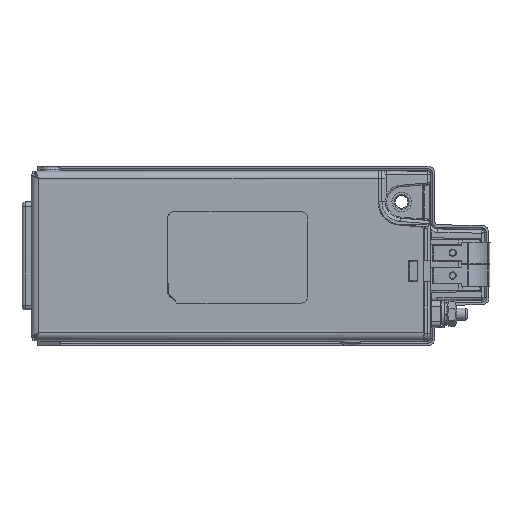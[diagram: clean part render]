
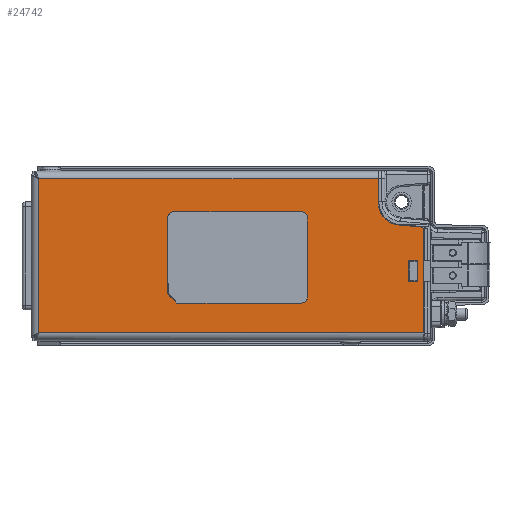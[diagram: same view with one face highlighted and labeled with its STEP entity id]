
A CAD part, top view. The second image highlights one B-rep face of the part: STEP entity #24742.
In plain terms, the highlighted planar face has unit normal (0, 0, 1).
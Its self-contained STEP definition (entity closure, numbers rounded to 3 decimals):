
#467=FACE_BOUND('',#3559,.T.);
#468=FACE_BOUND('',#3560,.T.);
#961=PLANE('',#26792);
#2165=FACE_OUTER_BOUND('',#3558,.T.);
#3558=EDGE_LOOP('',(#19917,#19918,#19919,#19920,#19921,#19922,#19923,#19924));
#3559=EDGE_LOOP('',(#19925,#19926,#19927,#19928));
#3560=EDGE_LOOP('',(#19929,#19930,#19931,#19932,#19933,#19934,#19935,#19936,
#19937,#19938));
#4533=CIRCLE('',#25624,7.5);
#4909=CIRCLE('',#26793,2.);
#4910=CIRCLE('',#26794,2.);
#4911=CIRCLE('',#26795,2.);
#5320=LINE('',#35169,#7500);
#5321=LINE('',#35220,#7501);
#5325=LINE('',#35258,#7505);
#5367=LINE('',#35345,#7547);
#5370=LINE('',#35350,#7550);
#5372=LINE('',#35354,#7552);
#5374=LINE('',#35357,#7554);
#5433=LINE('',#35474,#7613);
#5436=LINE('',#35479,#7616);
#5832=LINE('',#36624,#8012);
#5854=LINE('',#36710,#8034);
#5856=LINE('',#36717,#8036);
#5860=LINE('',#36737,#8040);
#6603=LINE('',#43694,#8783);
#6604=LINE('',#43698,#8784);
#6605=LINE('',#43702,#8785);
#6606=LINE('',#43706,#8786);
#6607=LINE('',#43707,#8787);
#7500=VECTOR('',#27895,10.);
#7501=VECTOR('',#27900,10.);
#7505=VECTOR('',#27910,10.);
#7547=VECTOR('',#27984,10.);
#7550=VECTOR('',#27989,10.);
#7552=VECTOR('',#27993,10.);
#7554=VECTOR('',#27997,10.);
#7613=VECTOR('',#28118,10.);
#7616=VECTOR('',#28123,10.);
#8012=VECTOR('',#29069,10.);
#8034=VECTOR('',#29119,10.);
#8036=VECTOR('',#29125,10.);
#8040=VECTOR('',#29135,10.);
#8783=VECTOR('',#32212,10.);
#8784=VECTOR('',#32215,10.);
#8785=VECTOR('',#32218,10.);
#8786=VECTOR('',#32221,10.);
#8787=VECTOR('',#32222,10.);
#9653=VERTEX_POINT('',#34885);
#9656=VERTEX_POINT('',#34933);
#9719=VERTEX_POINT('',#35168);
#9723=VERTEX_POINT('',#35256);
#9751=VERTEX_POINT('',#35343);
#9752=VERTEX_POINT('',#35344);
#9753=VERTEX_POINT('',#35349);
#9754=VERTEX_POINT('',#35353);
#9772=VERTEX_POINT('',#35447);
#9779=VERTEX_POINT('',#35467);
#9781=VERTEX_POINT('',#35473);
#10102=VERTEX_POINT('',#36622);
#10136=VERTEX_POINT('',#36708);
#10139=VERTEX_POINT('',#36715);
#10141=VERTEX_POINT('',#36731);
#11028=VERTEX_POINT('',#43693);
#11029=VERTEX_POINT('',#43695);
#11030=VERTEX_POINT('',#43697);
#11031=VERTEX_POINT('',#43699);
#11032=VERTEX_POINT('',#43701);
#11033=VERTEX_POINT('',#43703);
#11034=VERTEX_POINT('',#43705);
#11927=EDGE_CURVE('',#9719,#9653,#5320,.T.);
#11932=EDGE_CURVE('',#9653,#9656,#5321,.T.);
#11937=EDGE_CURVE('',#9656,#9723,#5325,.T.);
#11979=EDGE_CURVE('',#9751,#9752,#5367,.T.);
#11982=EDGE_CURVE('',#9753,#9751,#5370,.T.);
#11984=EDGE_CURVE('',#9754,#9753,#5372,.T.);
#11986=EDGE_CURVE('',#9752,#9754,#5374,.T.);
#12045=EDGE_CURVE('',#9781,#9779,#5433,.T.);
#12048=EDGE_CURVE('',#9772,#9781,#5436,.T.);
#12556=EDGE_CURVE('',#10102,#9723,#5832,.T.);
#12592=EDGE_CURVE('',#10136,#10102,#5854,.T.);
#12595=EDGE_CURVE('',#10136,#10139,#5856,.T.);
#12599=EDGE_CURVE('',#10139,#10141,#4533,.T.);
#12601=EDGE_CURVE('',#10141,#9719,#5860,.T.);
#14129=EDGE_CURVE('',#9779,#11028,#6603,.T.);
#14130=EDGE_CURVE('',#11028,#11029,#4909,.T.);
#14131=EDGE_CURVE('',#11029,#11030,#6604,.T.);
#14132=EDGE_CURVE('',#11030,#11031,#4910,.T.);
#14133=EDGE_CURVE('',#11031,#11032,#6605,.T.);
#14134=EDGE_CURVE('',#11032,#11033,#4911,.T.);
#14135=EDGE_CURVE('',#11033,#11034,#6606,.T.);
#14136=EDGE_CURVE('',#11034,#9772,#6607,.T.);
#19917=ORIENTED_EDGE('',*,*,#11932,.T.);
#19918=ORIENTED_EDGE('',*,*,#11937,.T.);
#19919=ORIENTED_EDGE('',*,*,#12556,.F.);
#19920=ORIENTED_EDGE('',*,*,#12592,.F.);
#19921=ORIENTED_EDGE('',*,*,#12595,.T.);
#19922=ORIENTED_EDGE('',*,*,#12599,.T.);
#19923=ORIENTED_EDGE('',*,*,#12601,.T.);
#19924=ORIENTED_EDGE('',*,*,#11927,.T.);
#19925=ORIENTED_EDGE('',*,*,#11979,.T.);
#19926=ORIENTED_EDGE('',*,*,#11986,.T.);
#19927=ORIENTED_EDGE('',*,*,#11984,.T.);
#19928=ORIENTED_EDGE('',*,*,#11982,.T.);
#19929=ORIENTED_EDGE('',*,*,#14129,.T.);
#19930=ORIENTED_EDGE('',*,*,#14130,.T.);
#19931=ORIENTED_EDGE('',*,*,#14131,.T.);
#19932=ORIENTED_EDGE('',*,*,#14132,.T.);
#19933=ORIENTED_EDGE('',*,*,#14133,.T.);
#19934=ORIENTED_EDGE('',*,*,#14134,.T.);
#19935=ORIENTED_EDGE('',*,*,#14135,.T.);
#19936=ORIENTED_EDGE('',*,*,#14136,.T.);
#19937=ORIENTED_EDGE('',*,*,#12048,.T.);
#19938=ORIENTED_EDGE('',*,*,#12045,.T.);
#24742=ADVANCED_FACE('',(#2165,#467,#468),#961,.T.);
#25624=AXIS2_PLACEMENT_3D('',#36733,#29130,#29131);
#26792=AXIS2_PLACEMENT_3D('',#43692,#32210,#32211);
#26793=AXIS2_PLACEMENT_3D('',#43696,#32213,#32214);
#26794=AXIS2_PLACEMENT_3D('',#43700,#32216,#32217);
#26795=AXIS2_PLACEMENT_3D('',#43704,#32219,#32220);
#27895=DIRECTION('',(-1.,0.,0.));
#27900=DIRECTION('',(0.,-1.,0.));
#27910=DIRECTION('',(1.,0.,0.));
#27984=DIRECTION('',(-1.,0.,0.));
#27989=DIRECTION('',(0.,-1.,0.));
#27993=DIRECTION('',(1.,0.,0.));
#27997=DIRECTION('',(0.,1.,0.));
#28118=DIRECTION('',(0.,1.,0.));
#28123=DIRECTION('',(-0.707,0.707,0.));
#29069=DIRECTION('',(0.,-1.,0.));
#29119=DIRECTION('',(0.676,-0.737,0.));
#29125=DIRECTION('',(-0.996,0.087,0.));
#29130=DIRECTION('center_axis',(0.,0.,
-1.));
#29131=DIRECTION('ref_axis',(-1.,0.,0.));
#29135=DIRECTION('',(0.,1.,0.));
#32210=DIRECTION('center_axis',(0.,0.,
1.));
#32211=DIRECTION('ref_axis',(0.,-1.,0.));
#32212=DIRECTION('',(0.,1.,0.));
#32213=DIRECTION('center_axis',(0.,0.,
-1.));
#32214=DIRECTION('ref_axis',(-0.707,0.707,0.));
#32215=DIRECTION('',(1.,0.,0.));
#32216=DIRECTION('center_axis',(0.,0.,
-1.));
#32217=DIRECTION('ref_axis',(0.707,0.707,0.));
#32218=DIRECTION('',(0.,-1.,0.));
#32219=DIRECTION('center_axis',(0.,0.,
-1.));
#32220=DIRECTION('ref_axis',(0.707,-0.707,0.));
#32221=DIRECTION('',(-1.,0.,0.));
#32222=DIRECTION('',(-0.707,0.707,0.));
#34885=CARTESIAN_POINT('',(-82.6,25.4,34.9));
#34933=CARTESIAN_POINT('',(-82.6,-25.4,34.9));
#35168=CARTESIAN_POINT('',(29.2,25.4,34.9));
#35169=CARTESIAN_POINT('',(11.875,25.4,34.9));
#35220=CARTESIAN_POINT('',(-82.6,-12.7,34.9));
#35256=CARTESIAN_POINT('',(44.2,-25.4,34.9));
#35258=CARTESIAN_POINT('',(-52.775,-25.4,34.9));
#35343=CARTESIAN_POINT('',(42.2,-8.5,34.9));
#35344=CARTESIAN_POINT('',(39.2,-8.5,34.9));
#35345=CARTESIAN_POINT('',(10.875,-8.5,34.9));
#35349=CARTESIAN_POINT('',(42.2,-1.5,34.9));
#35350=CARTESIAN_POINT('',(42.2,-0.75,34.9));
#35353=CARTESIAN_POINT('',(39.2,-1.5,34.9));
#35354=CARTESIAN_POINT('',(9.375,-1.5,34.9));
#35357=CARTESIAN_POINT('',(39.2,-4.25,34.9));
#35447=CARTESIAN_POINT('',(-37.625,-15.,34.9));
#35467=CARTESIAN_POINT('',(-40.1,-9.025,34.9));
#35473=CARTESIAN_POINT('',(-40.1,-12.525,34.9));
#35474=CARTESIAN_POINT('',(-40.1,-6.263,34.9));
#35479=CARTESIAN_POINT('',(-37.081,-15.544,34.9));
#36622=CARTESIAN_POINT('',(44.2,8.915,34.9));
#36624=CARTESIAN_POINT('',(44.2,27.9,34.9));
#36708=CARTESIAN_POINT('',(43.702,9.459,34.9));
#36710=CARTESIAN_POINT('',(31.542,22.729,34.9));
#36715=CARTESIAN_POINT('',(36.046,10.129,34.9));
#36717=CARTESIAN_POINT('',(12.529,12.186,34.9));
#36731=CARTESIAN_POINT('',(29.2,17.6,34.9));
#36733=CARTESIAN_POINT('Origin',(36.7,17.6,34.9));
#36737=CARTESIAN_POINT('',(29.2,8.8,34.9));
#43692=CARTESIAN_POINT('Origin',(-20.45,0.,
34.9));
#43693=CARTESIAN_POINT('',(-40.1,12.475,34.9));
#43694=CARTESIAN_POINT('',(-40.1,-7.763,34.9));
#43695=CARTESIAN_POINT('',(-38.1,14.475,34.9));
#43696=CARTESIAN_POINT('Origin',(-38.1,12.475,34.9));
#43697=CARTESIAN_POINT('',(3.9,14.475,34.9));
#43698=CARTESIAN_POINT('',(-30.275,14.475,34.9));
#43699=CARTESIAN_POINT('',(5.9,12.475,34.9));
#43700=CARTESIAN_POINT('Origin',(3.9,12.475,34.9));
#43701=CARTESIAN_POINT('',(5.9,-13.525,34.9));
#43702=CARTESIAN_POINT('',(5.9,7.237,34.9));
#43703=CARTESIAN_POINT('',(3.9,-15.525,34.9));
#43704=CARTESIAN_POINT('Origin',(3.9,-13.525,34.9));
#43705=CARTESIAN_POINT('',(-37.1,-15.525,34.9));
#43706=CARTESIAN_POINT('',(-7.275,-15.525,34.9));
#43707=CARTESIAN_POINT('',(-37.569,-15.056,34.9));
